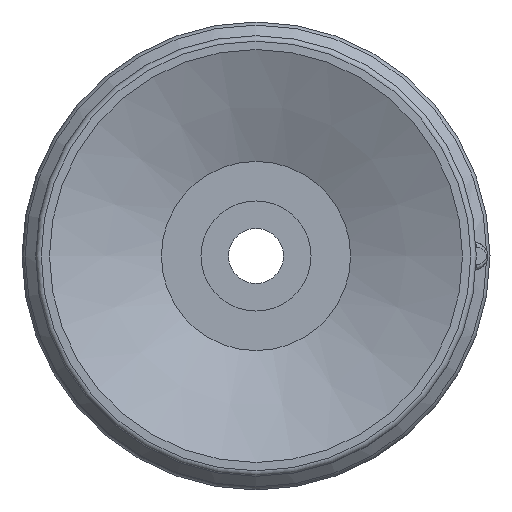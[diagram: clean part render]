
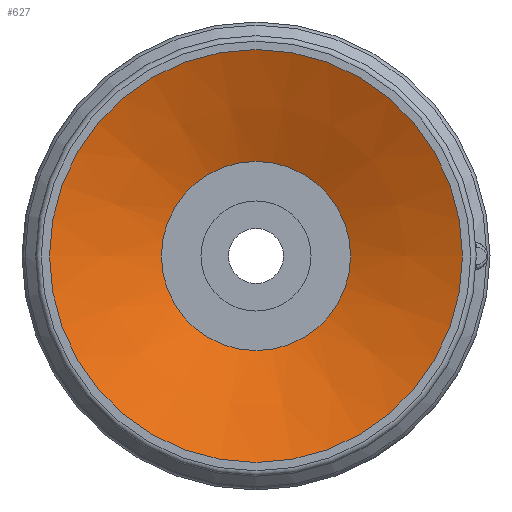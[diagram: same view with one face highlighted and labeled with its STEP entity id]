
A CAD part, front view. The second image highlights one B-rep face of the part: STEP entity #627.
In plain terms, the highlighted conical face has half-angle 67.5 degrees and reference radius 3.437 mm.
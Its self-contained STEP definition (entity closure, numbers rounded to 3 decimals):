
#627=ADVANCED_FACE('',(#869,#870),#871,.F.);
#869=FACE_BOUND('',#2145,.T.);
#870=FACE_OUTER_BOUND('',#2146,.T.);
#871=CONICAL_SURFACE('',#2147,3.437,1.178);
#2145=EDGE_LOOP('',(#2756));
#2146=EDGE_LOOP('',(#2757));
#2147=AXIS2_PLACEMENT_3D('',#2758,#2759,#2760);
#2756=ORIENTED_EDGE('',*,*,#2991,.F.);
#2757=ORIENTED_EDGE('',*,*,#2981,.T.);
#2758=CARTESIAN_POINT('',(0.0,0.0,1.683));
#2759=DIRECTION('',(0.0,0.,-1.0));
#2760=DIRECTION('',(0.0,1.0,0.));
#2981=EDGE_CURVE('',#3264,#3264,#3265,.T.);
#2991=EDGE_CURVE('',#3284,#3284,#3285,.T.);
#3264=VERTEX_POINT('',#4081);
#3265=CIRCLE('',#4082,7.5);
#3284=VERTEX_POINT('',#4101);
#3285=CIRCLE('',#4102,3.437);
#4081=CARTESIAN_POINT('',(-7.5,0.0,0.));
#4082=AXIS2_PLACEMENT_3D('',#4335,#4336,#4337);
#4101=CARTESIAN_POINT('',(-3.437,0.0,1.683));
#4102=AXIS2_PLACEMENT_3D('',#4365,#4366,#4367);
#4335=CARTESIAN_POINT('',(0.0,0.0,0.));
#4336=DIRECTION('',(0.0,0.,-1.0));
#4337=DIRECTION('',(0.0,1.0,0.));
#4365=CARTESIAN_POINT('',(0.0,0.0,1.683));
#4366=DIRECTION('',(0.0,0.,-1.0));
#4367=DIRECTION('',(0.0,1.0,0.));
